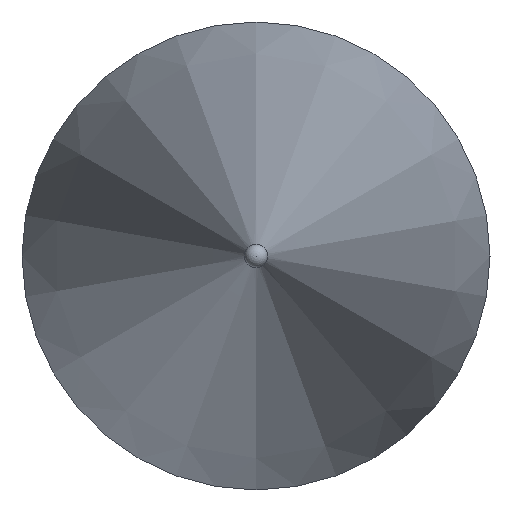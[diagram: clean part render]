
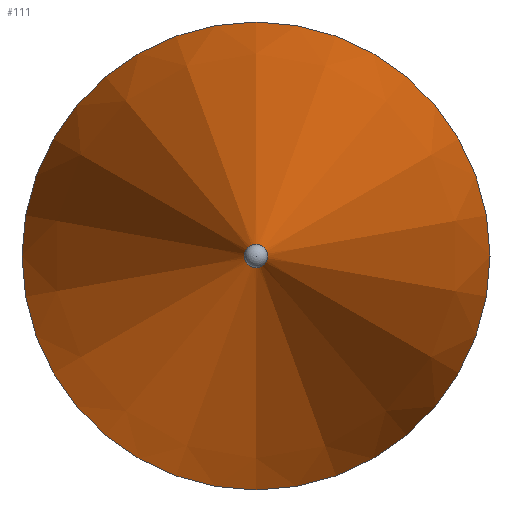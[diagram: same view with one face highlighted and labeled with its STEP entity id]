
A CAD part, left-side view. The second image highlights one B-rep face of the part: STEP entity #111.
In plain terms, the highlighted conical face has half-angle 12 degrees and reference radius 2 mm.
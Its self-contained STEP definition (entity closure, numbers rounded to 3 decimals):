
#95=CONICAL_SURFACE('',#160,2.,12.);
#101=FACE_BOUND('',#121,.T.);
#102=FACE_BOUND('',#122,.T.);
#111=ADVANCED_FACE('',(#101,#102),#95,.T.);
#121=EDGE_LOOP('',(#131));
#122=EDGE_LOOP('',(#132));
#131=ORIENTED_EDGE('',*,*,#144,.F.);
#132=ORIENTED_EDGE('',*,*,#145,.T.);
#139=VERTEX_POINT('',#196);
#140=VERTEX_POINT('',#199);
#144=EDGE_CURVE('',#139,#139,#149,.T.);
#145=EDGE_CURVE('',#140,#140,#150,.T.);
#149=CIRCLE('',#157,0.1);
#150=CIRCLE('',#159,2.);
#157=AXIS2_PLACEMENT_3D('',#195,#174,#175);
#159=AXIS2_PLACEMENT_3D('',#198,#178,#179);
#160=AXIS2_PLACEMENT_3D('',#200,#180,#181);
#174=DIRECTION('',(-1.,0.,0.));
#175=DIRECTION('',(0.,0.,1.));
#178=DIRECTION('',(-1.,0.,0.));
#179=DIRECTION('',(0.,0.,1.));
#180=DIRECTION('',(1.,0.,0.));
#181=DIRECTION('',(0.,0.,-1.));
#195=CARTESIAN_POINT('',(7888.062,6105.041,0.));
#196=CARTESIAN_POINT('',(7888.062,6105.041,0.1));
#198=CARTESIAN_POINT('',(7897.001,6105.041,0.));
#199=CARTESIAN_POINT('',(7897.001,6105.041,2.));
#200=CARTESIAN_POINT('',(7897.001,6105.041,0.));
